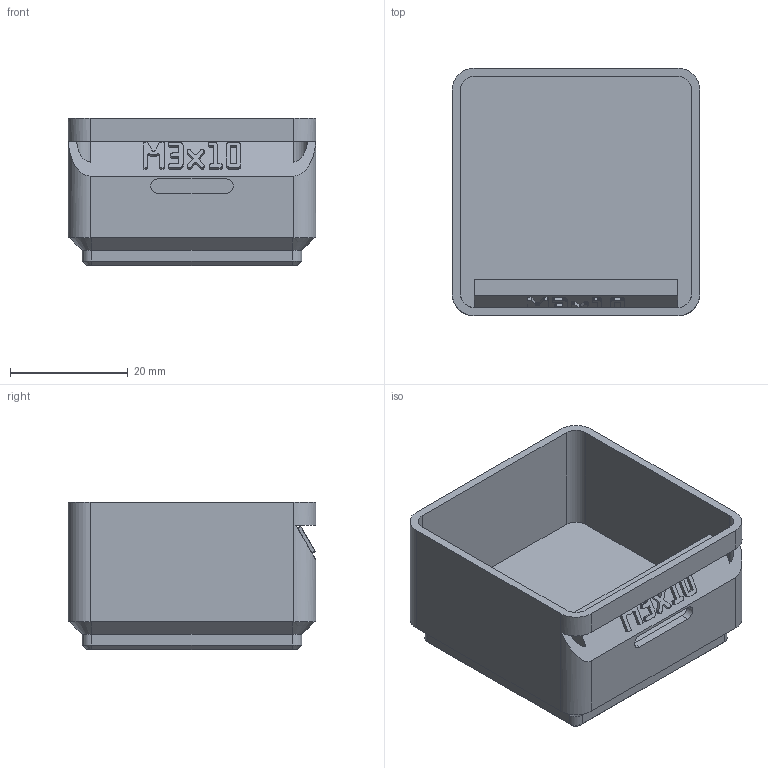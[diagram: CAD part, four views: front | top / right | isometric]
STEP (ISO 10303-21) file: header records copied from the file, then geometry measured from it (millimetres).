
FILE_DESCRIPTION(('Open CASCADE Model'),'2;1');
FILE_NAME('Open CASCADE Shape Model','2026-11-03T17:13:45',('Author'),( 'Open CASCADE'),'Open CASCADE STEP processor 8.0','build123d', 'Unknown');
FILE_SCHEMA(('AUTOMOTIVE_DESIGN { 1 0 10303 214 1 1 1 1 }'));
Length unit declared in the file: millimetre
Products named in the file (1): COMPOUND
Bounding box: 42 x 42 x 25 mm (x, y, z)
Volume: 13726.2 mm3; surface area: 10541.3 mm2
Topology: 1 solids, 1 shells, 513 faces, 1497 edges, 992 vertices
Faces by surface type: plane 491, cylinder 14, cone 8
Entity records: 35152 total; most frequent: CARTESIAN_POINT 7083, DIRECTION 4545, LINE 3401, VECTOR 3401, ORIENTED_EDGE 2994, PCURVE 2994, DEFINITIONAL_REPRESENTATION 2994, EDGE_CURVE 1497
